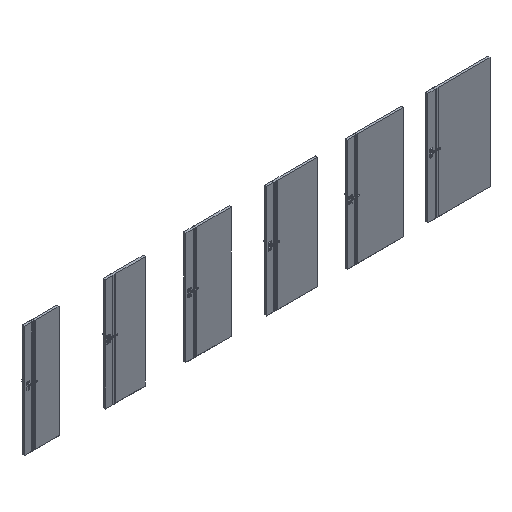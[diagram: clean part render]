
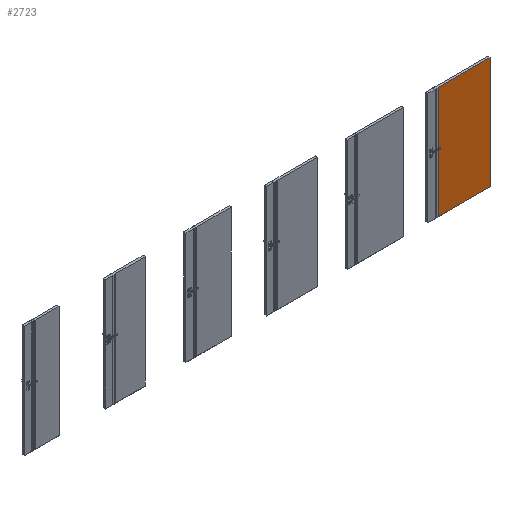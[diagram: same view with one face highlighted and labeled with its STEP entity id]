
A CAD part, isometric view. The second image highlights one B-rep face of the part: STEP entity #2723.
In plain terms, the highlighted planar face has unit normal (0, -1, 0).
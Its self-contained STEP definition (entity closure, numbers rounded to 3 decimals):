
#2723=ADVANCED_FACE('',(#4925),#4087,.F.);
#4087=PLANE('',#23348);
#4925=FACE_OUTER_BOUND('',#6281,.T.);
#6281=EDGE_LOOP('',(#8783,#8784,#8785,#8786));
#8783=ORIENTED_EDGE('',*,*,#16383,.F.);
#8784=ORIENTED_EDGE('',*,*,#16384,.T.);
#8785=ORIENTED_EDGE('',*,*,#16385,.F.);
#8786=ORIENTED_EDGE('',*,*,#16386,.F.);
#14237=VERTEX_POINT('',#32956);
#14238=VERTEX_POINT('',#32957);
#14239=VERTEX_POINT('',#32959);
#14240=VERTEX_POINT('',#32961);
#16383=EDGE_CURVE('',#14237,#14238,#19449,.T.);
#16384=EDGE_CURVE('',#14237,#14239,#19450,.T.);
#16385=EDGE_CURVE('',#14240,#14239,#19451,.T.);
#16386=EDGE_CURVE('',#14238,#14240,#19452,.T.);
#19449=LINE('',#32955,#21525);
#19450=LINE('',#32958,#21526);
#19451=LINE('',#32960,#21527);
#19452=LINE('',#32962,#21528);
#21525=VECTOR('',#26124,1.);
#21526=VECTOR('',#26125,1.);
#21527=VECTOR('',#26126,1.);
#21528=VECTOR('',#26127,1.);
#23348=AXIS2_PLACEMENT_3D('',#32963,#26128,#26129);
#26124=DIRECTION('',(0.,0.,1.));
#26125=DIRECTION('',(1.,0.,0.));
#26126=DIRECTION('',(0.,0.,-1.));
#26127=DIRECTION('',(1.,0.,0.));
#26128=DIRECTION('',(0.,1.,0.));
#26129=DIRECTION('',(-1.,0.,0.));
#32955=CARTESIAN_POINT('',(7131.,-39.3,2017.));
#32956=CARTESIAN_POINT('',(7131.,-39.3,2.));
#32957=CARTESIAN_POINT('',(7131.,-39.3,2017.));
#32958=CARTESIAN_POINT('',(7191.,-39.3,2.));
#32959=CARTESIAN_POINT('',(8059.,-39.3,2.));
#32960=CARTESIAN_POINT('',(8059.,-39.3,2017.));
#32961=CARTESIAN_POINT('',(8059.,-39.3,2017.));
#32962=CARTESIAN_POINT('',(7191.,-39.3,2017.));
#32963=CARTESIAN_POINT('',(7191.,-39.3,2017.));
